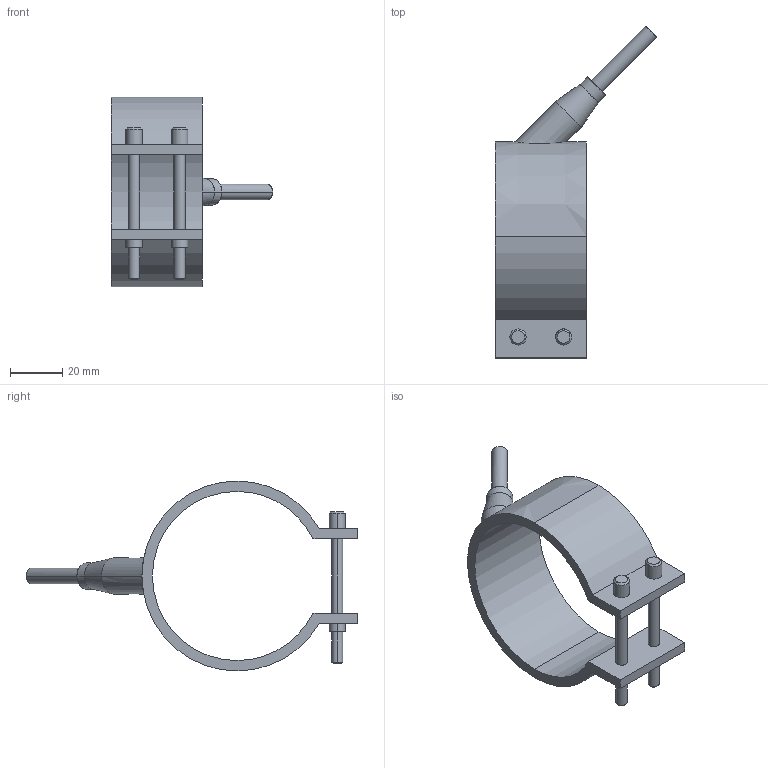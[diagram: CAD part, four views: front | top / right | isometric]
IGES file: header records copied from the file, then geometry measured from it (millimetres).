
Start section: START RECORD GO HERE.
Global section: file name: 29065035.igs; native system: DASSAULT SYSTEMES CATIA V5 R20 - www.3ds.com; preprocessor: CATIA Version 5 Release 20 ; author: Utente; organization: NB04-ASUS; date: 20210327.104804; units: millimetre
Bounding box: 62.05 x 127.55 x 73 mm (x, y, z)
Surface area: 20118.7 mm2 (no closed solid volume)
Topology: 0 solids, 0 shells, 54 faces, 252 edges, 252 vertices
Faces by surface type: revolution 38, plane 16
